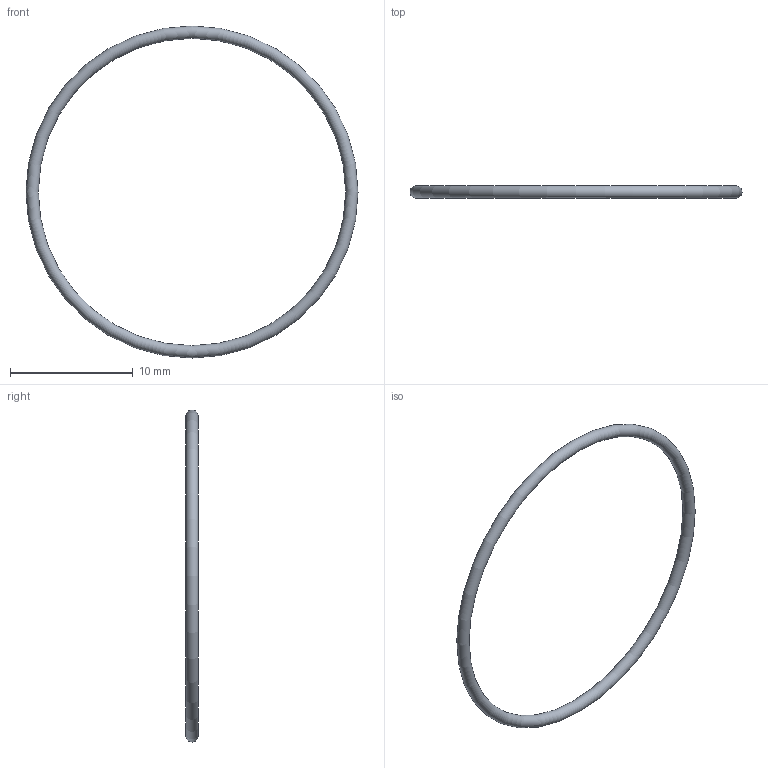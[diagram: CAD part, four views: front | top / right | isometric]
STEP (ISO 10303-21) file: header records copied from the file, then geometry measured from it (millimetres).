
FILE_DESCRIPTION( ( 'STEP AP203' ), '1' );
FILE_NAME( 'C:/Temp/Ganter_Step_05_03_2020/data/3_5/or638/O-Ring OR638-25.00-1.00-70.stp', '2020-03-12T13:44:16', ( 'License CC BY-ND 4.0' ), ( 'CADENAS' ), ' ', 'PARTsolutions', ' ' );
FILE_SCHEMA( ( 'CONFIG_CONTROL_DESIGN' ) );
Length unit declared in the file: millimetre
Products named in the file (1): _O-Ring OR638-25.00-1.00-70
Bounding box: 27 x 1 x 27 mm (x, y, z)
Volume: 64.2 mm3; surface area: 256.6 mm2
Topology: 1 solids, 1 shells, 1 faces, 2 edges, 1 vertices
Faces by surface type: torus 1
Entity records: 62 total; most frequent: CC_DESIGN_PERSON_AND_ORGANIZATION_ASSIGNMENT 5, PERSON_AND_ORGANIZATION_ROLE 4, DIRECTION 4, CARTESIAN_POINT 3, DATE_TIME_ROLE 2, CC_DESIGN_DATE_AND_TIME_ASSIGNMENT 2, AXIS2_PLACEMENT_3D 2, DIMENSIONAL_EXPONENTS 2
